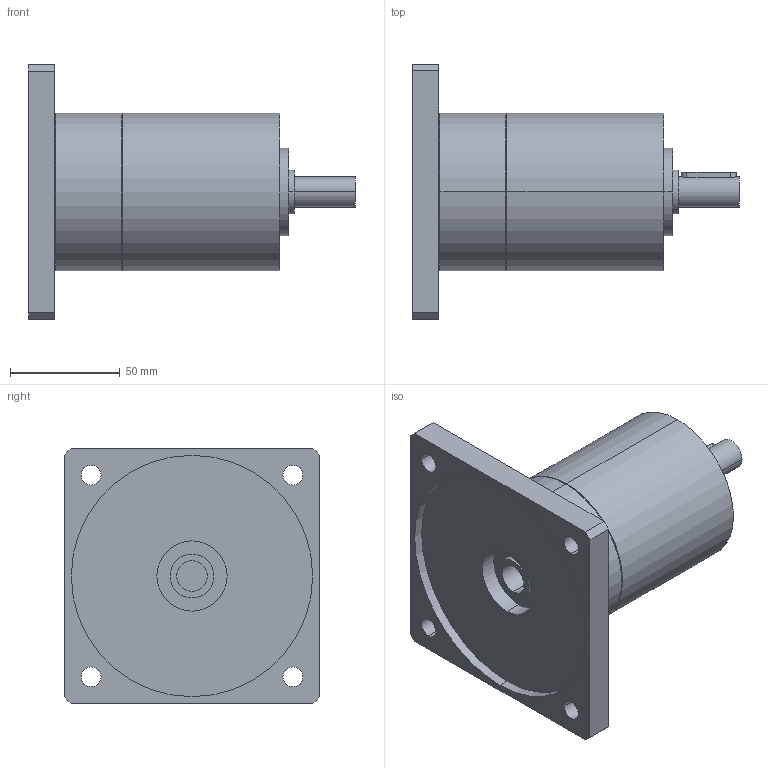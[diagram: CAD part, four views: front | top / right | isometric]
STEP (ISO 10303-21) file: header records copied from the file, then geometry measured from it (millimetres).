
FILE_DESCRIPTION(('CoCreate Modeling STEP Export'),'2;1');
FILE_NAME('GPT75_ig-9-12-16-20-25-28-35-40-50-70-100_14_B14T_14_P09.stp','2014-08-27T13:17:00',(''),(''),'CoCreate Modeling STEP processor for AP214 (Solid Model)','CoCreate Modeling 16.00C 25-Feb-2009 (C) Parametric Technology GmbH','');
FILE_SCHEMA(('AUTOMOTIVE_DESIGN { 1 0 10303 214 1 1 1 1 }'));
Length unit declared in the file: millimetre
Products named in the file (2): GPT75_ig-9-12-16-20-25-28-35-40-50-70-100_14_B14T_14_P09
Assembly tree (1 placements, depth 2):
  GPT75_ig-9-12-16-20-25-28-35-40-50-70-100_14_B14T_14_P09
    GPT75_ig-9-12-16-20-25-28-35-40-50-70-100_14_B14T_14_P09
Bounding box: 149 x 116 x 116 mm (x, y, z)
Volume: 532227.5 mm3; surface area: 63490 mm2
Topology: 1 solids, 1 shells, 69 faces, 166 edges, 113 vertices
Faces by surface type: cylinder 42, plane 23, cone 4
Entity records: 2161 total; most frequent: CARTESIAN_POINT 664, ORIENTED_EDGE 332, DIRECTION 262, EDGE_CURVE 166, VERTEX_POINT 113, AXIS2_PLACEMENT_3D 99, EDGE_LOOP 91, FACE_OUTER_BOUND 69
